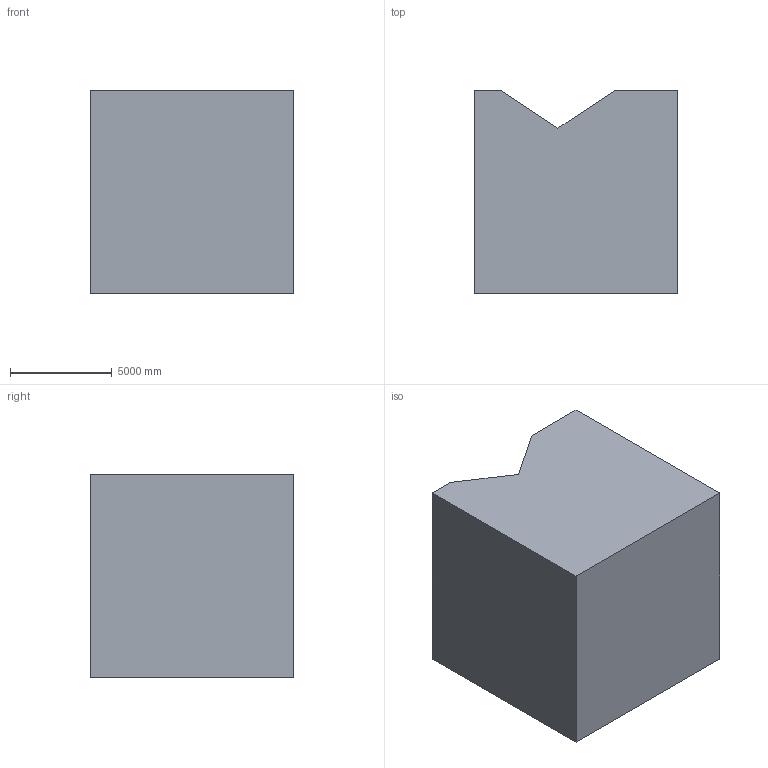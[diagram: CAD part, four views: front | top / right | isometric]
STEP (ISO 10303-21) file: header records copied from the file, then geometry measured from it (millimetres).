
FILE_DESCRIPTION (( 'STEP AP203' ), '1' );
FILE_NAME ('1103.STEP', '2022-08-18T12:46:25', ( 'user' ), ( '' ), 'SwSTEP 2.0', 'SolidWorks 2021', '' );
FILE_SCHEMA (( 'CONFIG_CONTROL_DESIGN' ));
Length unit declared in the file: centimetre
Products named in the file (1): 1103
Bounding box: 10000 x 10000 x 10000 mm (x, y, z)
Volume: 902001022232.5 mm3; surface area: 684810859.3 mm2
Topology: 1 solids, 1 shells, 15 faces, 33 edges, 22 vertices
Faces by surface type: plane 11, cylinder 4
Entity records: 492 total; most frequent: DIRECTION 73, CARTESIAN_POINT 71, ORIENTED_EDGE 66, EDGE_CURVE 33, LINE 25, VECTOR 25, AXIS2_PLACEMENT_3D 24, VERTEX_POINT 22
